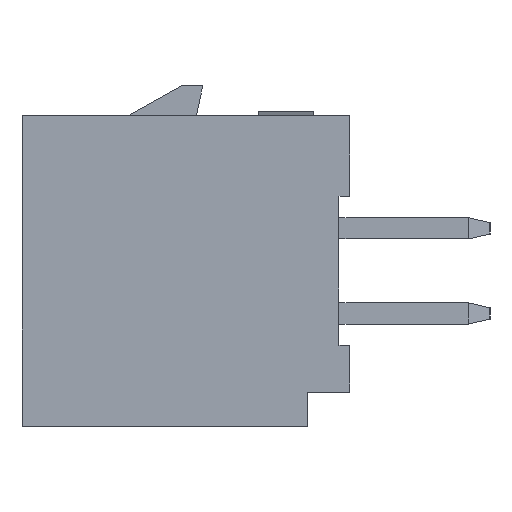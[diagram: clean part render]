
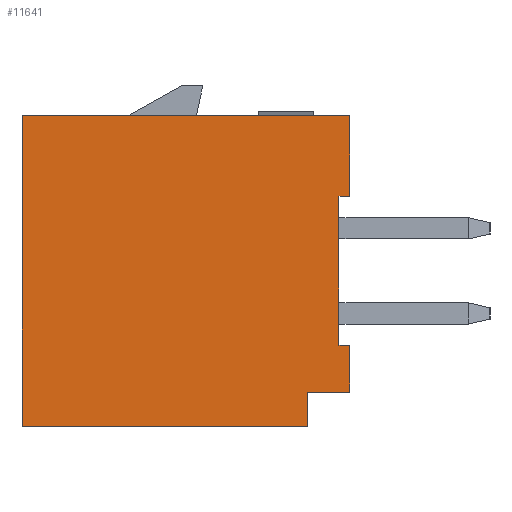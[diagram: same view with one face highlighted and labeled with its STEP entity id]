
A CAD part, left-side view. The second image highlights one B-rep face of the part: STEP entity #11641.
In plain terms, the highlighted planar face has unit normal (-1, 0, 0).
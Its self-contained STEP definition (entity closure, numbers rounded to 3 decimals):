
#64 = EDGE_CURVE ( 'NONE', #4919, #10467, #13876, .T. ) ;
#115 = LINE ( 'NONE', #4247, #13369 ) ;
#598 = CARTESIAN_POINT ( 'NONE',  ( -21.153, 6.167, -3.65 ) ) ;
#1021 = ORIENTED_EDGE ( 'NONE', *, *, #9366, .T. ) ;
#1041 = CARTESIAN_POINT ( 'NONE',  ( -21.153, -1.533, -1.75 ) ) ;
#1467 = EDGE_CURVE ( 'NONE', #10151, #3618, #9868, .T. ) ;
#1614 = AXIS2_PLACEMENT_3D ( 'NONE', #12105, #9997, #13121 ) ;
#1660 = CARTESIAN_POINT ( 'NONE',  ( -21.153, -1.533, -2.85 ) ) ;
#1854 = CARTESIAN_POINT ( 'NONE',  ( -21.153, -1.533, -1.75 ) ) ;
#2538 = DIRECTION ( 'NONE',  ( 0., 1., 0. ) ) ;
#2674 = LINE ( 'NONE', #1660, #8515 ) ;
#2700 = CARTESIAN_POINT ( 'NONE',  ( -21.153, 6.167, 3.65 ) ) ;
#2784 = DIRECTION ( 'NONE',  ( 0., 0., -1. ) ) ;
#3069 = LINE ( 'NONE', #1041, #7480 ) ;
#3236 = DIRECTION ( 'NONE',  ( 0., 0., 1. ) ) ;
#3606 = CARTESIAN_POINT ( 'NONE',  ( -21.153, -1.533, 1.75 ) ) ;
#3618 = VERTEX_POINT ( 'NONE', #5658 ) ;
#3725 = EDGE_CURVE ( 'NONE', #13854, #6007, #13825, .T. ) ;
#3955 = CARTESIAN_POINT ( 'NONE',  ( -21.153, -0.533, -3.65 ) ) ;
#3961 = VECTOR ( 'NONE', #13362, 1000. ) ;
#4188 = LINE ( 'NONE', #6603, #5014 ) ;
#4247 = CARTESIAN_POINT ( 'NONE',  ( -21.153, -1.283, 1.75 ) ) ;
#4313 = CARTESIAN_POINT ( 'NONE',  ( -21.153, -1.533, 3.65 ) ) ;
#4369 = FACE_OUTER_BOUND ( 'NONE', #6871, .T. ) ;
#4437 = PLANE ( 'NONE',  #1614 ) ;
#4919 = VERTEX_POINT ( 'NONE', #14116 ) ;
#4922 = ORIENTED_EDGE ( 'NONE', *, *, #1467, .F. ) ;
#5014 = VECTOR ( 'NONE', #13230, 1000. ) ;
#5055 = VECTOR ( 'NONE', #13850, 1000. ) ;
#5303 = EDGE_CURVE ( 'NONE', #5637, #7754, #115, .T. ) ;
#5389 = DIRECTION ( 'NONE',  ( 0., 1., 0. ) ) ;
#5463 = VECTOR ( 'NONE', #7952, 1000. ) ;
#5637 = VERTEX_POINT ( 'NONE', #8757 ) ;
#5658 = CARTESIAN_POINT ( 'NONE',  ( -21.153, -1.533, -2.85 ) ) ;
#5739 = EDGE_CURVE ( 'NONE', #10151, #5637, #3069, .T. ) ;
#6007 = VERTEX_POINT ( 'NONE', #2700 ) ;
#6100 = ORIENTED_EDGE ( 'NONE', *, *, #64, .T. ) ;
#6603 = CARTESIAN_POINT ( 'NONE',  ( -21.153, -1.533, 1.75 ) ) ;
#6871 = EDGE_LOOP ( 'NONE', ( #4922, #9839, #7679, #8356, #11229, #7247, #1021, #9772, #6100, #10251 ) ) ;
#6941 = CARTESIAN_POINT ( 'NONE',  ( -21.153, -1.533, 3.65 ) ) ;
#7247 = ORIENTED_EDGE ( 'NONE', *, *, #3725, .T. ) ;
#7480 = VECTOR ( 'NONE', #5389, 1000. ) ;
#7577 = VECTOR ( 'NONE', #2784, 1000. ) ;
#7679 = ORIENTED_EDGE ( 'NONE', *, *, #5303, .T. ) ;
#7754 = VERTEX_POINT ( 'NONE', #9090 ) ;
#7952 = DIRECTION ( 'NONE',  ( 0., 0., -1. ) ) ;
#8006 = VECTOR ( 'NONE', #8345, 1000. ) ;
#8345 = DIRECTION ( 'NONE',  ( 0., 0., 1. ) ) ;
#8356 = ORIENTED_EDGE ( 'NONE', *, *, #8597, .T. ) ;
#8456 = EDGE_CURVE ( 'NONE', #10467, #3618, #2674, .T. ) ;
#8515 = VECTOR ( 'NONE', #11575, 1000. ) ;
#8597 = EDGE_CURVE ( 'NONE', #7754, #10036, #4188, .T. ) ;
#8757 = CARTESIAN_POINT ( 'NONE',  ( -21.153, -1.283, -1.75 ) ) ;
#9056 = LINE ( 'NONE', #9995, #5463 ) ;
#9088 = EDGE_CURVE ( 'NONE', #13854, #10036, #13650, .T. ) ;
#9090 = CARTESIAN_POINT ( 'NONE',  ( -21.153, -1.283, 1.75 ) ) ;
#9144 = CARTESIAN_POINT ( 'NONE',  ( -21.153, -0.533, -2.85 ) ) ;
#9366 = EDGE_CURVE ( 'NONE', #6007, #11495, #9056, .T. ) ;
#9772 = ORIENTED_EDGE ( 'NONE', *, *, #13116, .F. ) ;
#9839 = ORIENTED_EDGE ( 'NONE', *, *, #5739, .T. ) ;
#9868 = LINE ( 'NONE', #4313, #3961 ) ;
#9995 = CARTESIAN_POINT ( 'NONE',  ( -21.153, 6.167, 3.65 ) ) ;
#9997 = DIRECTION ( 'NONE',  ( 1., 0., 0. ) ) ;
#10036 = VERTEX_POINT ( 'NONE', #3606 ) ;
#10151 = VERTEX_POINT ( 'NONE', #1854 ) ;
#10251 = ORIENTED_EDGE ( 'NONE', *, *, #8456, .T. ) ;
#10467 = VERTEX_POINT ( 'NONE', #9144 ) ;
#10594 = CARTESIAN_POINT ( 'NONE',  ( -21.153, 6.167, -3.65 ) ) ;
#11229 = ORIENTED_EDGE ( 'NONE', *, *, #9088, .F. ) ;
#11495 = VERTEX_POINT ( 'NONE', #10594 ) ;
#11575 = DIRECTION ( 'NONE',  ( 0., -1., 0. ) ) ;
#11641 = ADVANCED_FACE ( 'NONE', ( #4369 ), #4437, .F. ) ;
#11891 = VECTOR ( 'NONE', #2538, 1000. ) ;
#12105 = CARTESIAN_POINT ( 'NONE',  ( -21.153, 6.167, 3.65 ) ) ;
#12757 = LINE ( 'NONE', #598, #5055 ) ;
#12838 = CARTESIAN_POINT ( 'NONE',  ( -21.153, -1.533, 3.65 ) ) ;
#13116 = EDGE_CURVE ( 'NONE', #4919, #11495, #12757, .T. ) ;
#13121 = DIRECTION ( 'NONE',  ( 0., 0., 1. ) ) ;
#13230 = DIRECTION ( 'NONE',  ( 0., -1., 0. ) ) ;
#13362 = DIRECTION ( 'NONE',  ( 0., 0., -1. ) ) ;
#13369 = VECTOR ( 'NONE', #3236, 1000. ) ;
#13544 = CARTESIAN_POINT ( 'NONE',  ( -21.153, 6.167, 3.65 ) ) ;
#13650 = LINE ( 'NONE', #12838, #7577 ) ;
#13825 = LINE ( 'NONE', #13544, #11891 ) ;
#13850 = DIRECTION ( 'NONE',  ( 0., 1., 0. ) ) ;
#13854 = VERTEX_POINT ( 'NONE', #6941 ) ;
#13876 = LINE ( 'NONE', #3955, #8006 ) ;
#14116 = CARTESIAN_POINT ( 'NONE',  ( -21.153, -0.533, -3.65 ) ) ;
